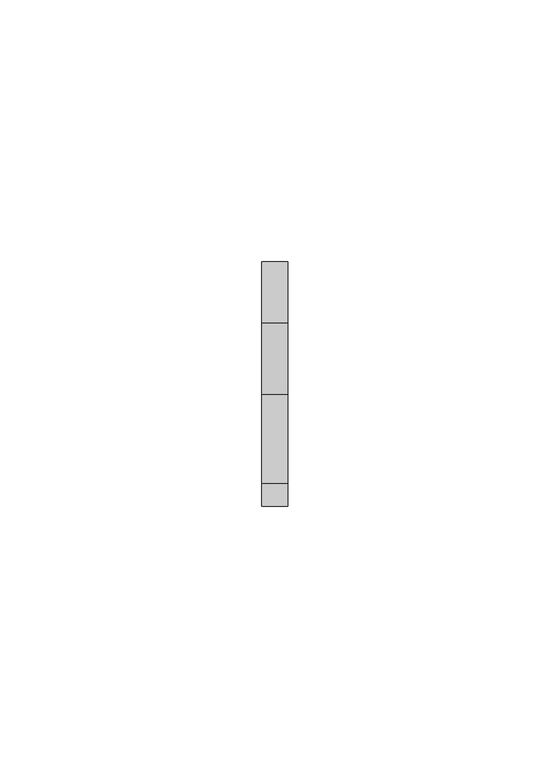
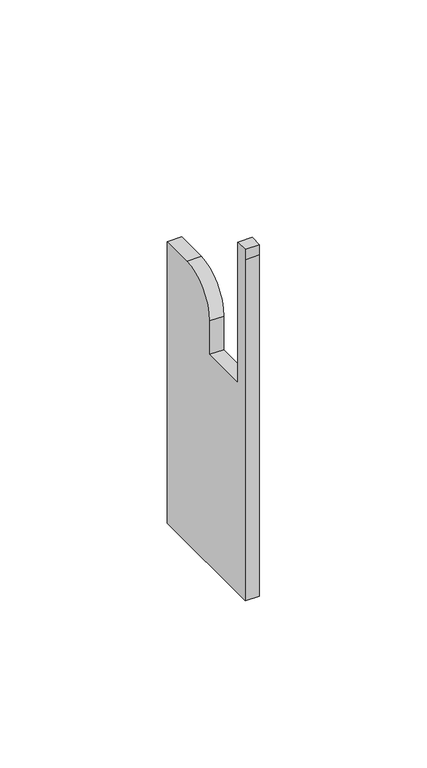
"""IFC4 building model written with IfcOpenShell, lengths in millimetres: proxy geometry, Odbojnik - OPW30R : Odbojnik - OPW30R."""

from ifc_helpers import new_model, si_unit, point, frame, frame_2d, origin, place, context, project, spatial, polyline, circle_curve, trimmed, segment, composite_curve, outline, extrude, source, transform, mapped, element, save


def generic_models_ec639326(model_context):
    return source(origin(), model_context, "Body", "SweptSolid", [
        extrude(outline(composite_curve([segment(polyline([(-21.2015316, 95.3724587), (-21.2015316, -7.5475413), (-67.8565316, -7.5475413), (-67.8565316, 117.1386217), (-67.8565316, 120.9080084), (-63.6165316, 120.9080084), (-63.6165316, 117.145886), (-63.6165316, 69.5324587), (-46.4815316, 69.5324587), (-46.4815316, 81.7724587)]), True, "CONTINUOUS"), segment(trimmed(circle_curve(frame_2d((-32.8815316, 81.7724587)), 13.6), [point((-46.4815316, 81.7724587))], [point((-32.8815316, 95.3724587))], False, "CARTESIAN"), True, "CONTINUOUS"), segment(polyline([(-32.8815316, 95.3724587), (-21.2015316, 95.3724587)]), True, "CONTINUOUS")], self_intersect=False)), frame((-2.5, 0.0, 0.0), z_axis=(1.0, 0.0, 0.0), x_axis=(0.0, 1.0, 0.0)), (0.0, 0.0, 1.0), 5.0),
    ])


if __name__ == "__main__":
    model = new_model("IFC4")
    model_context = context("Model", 3, world=origin())
    ifc_project = project(units=[si_unit("LENGTHUNIT", "METRE", prefix="MILLI")], contexts=[model_context])
    site = spatial("IfcSite", under=ifc_project)
    building = spatial("IfcBuilding", under=site)
    placement = place(None, origin())
    generic_models_shape = generic_models_ec639326(model_context)
    element("IfcBuildingElementProxy", 1, Name="Odbojnik - OPW30R : Odbojnik - OPW30R", ObjectType="Odbojnik - OPW30R : Odbojnik - OPW30R", at=placement, inside=building, context=model_context, shape_type="MappedRepresentation", body=[
        mapped(generic_models_shape, transform((0.0, 0.0, 0.0), x_axis=(1.0, 0.0, 0.0), y_axis=(0.0, 1.0, 0.0), z_axis=(0.0, 0.0, 1.0))),
    ])
    save(model, "model.ifc")
